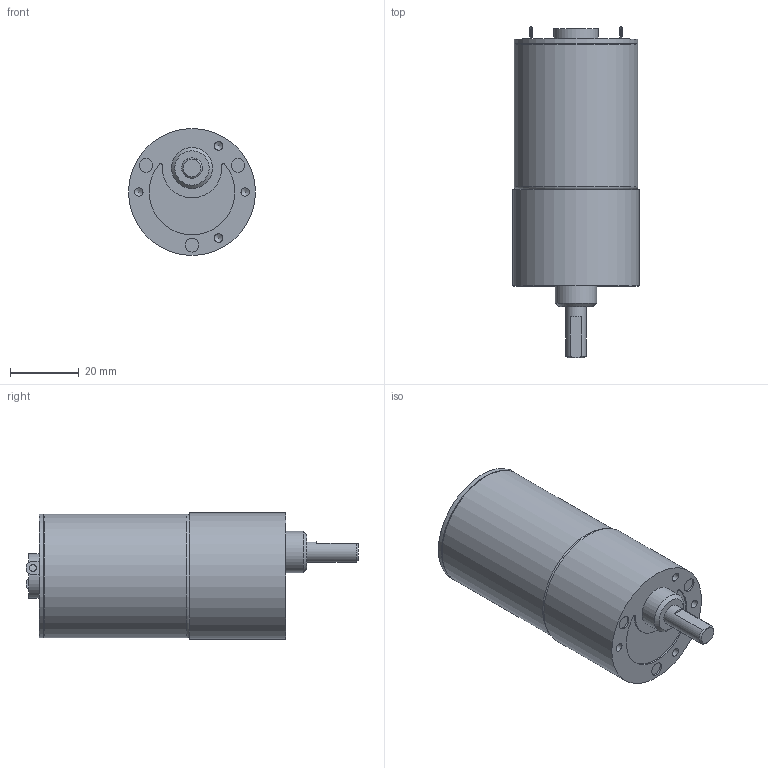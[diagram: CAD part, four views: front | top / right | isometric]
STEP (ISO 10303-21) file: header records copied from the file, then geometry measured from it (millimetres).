
FILE_DESCRIPTION((''),'2;1');
FILE_NAME('C:\Documents and Settings\SSEGAWA\デスクトップ\TP-3644D-KG-5.STP','2013-07-25T17:31:43',('SSEGAWA'),(''),'Autodesk Inventor 2010','Autodesk Inventor 2010','');
FILE_SCHEMA(('CONFIG_CONTROL_DESIGN'));
Length unit declared in the file: millimetre
Products named in the file (1): tp_3644dh_kg-5_Shrinkwrap_1
Bounding box: 37 x 96.8 x 37 mm (x, y, z)
Volume: 76044.5 mm3; surface area: 11525.6 mm2
Topology: 1 solids, 4 shells, 64 faces, 136 edges, 91 vertices
Faces by surface type: plane 27, cylinder 18, bspline 16, cone 2, torus 1
Full cylindrical faces by diameter (mm): 3 x1, 3.5 x1, 4 x3, 6 x1, 12 x1, 13 x1, 35.6 x1, 36 x2, 37 x1
Entity records: 1730 total; most frequent: CARTESIAN_POINT 500, DIRECTION 241, ORIENTED_EDGE 174, EDGE_LOOP 109, AXIS2_PLACEMENT_3D 107, EDGE_CURVE 87, VERTEX_POINT 72, STYLED_ITEM 65
